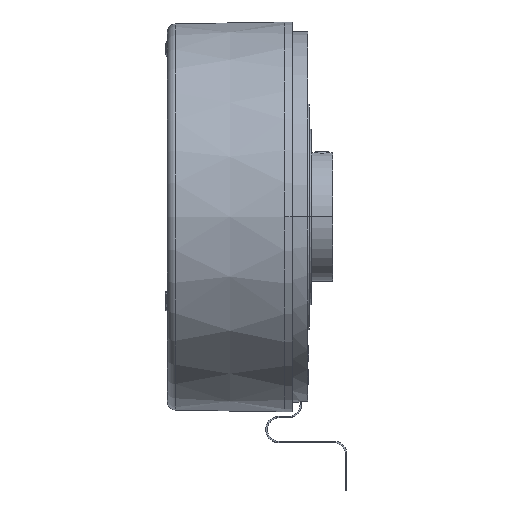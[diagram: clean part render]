
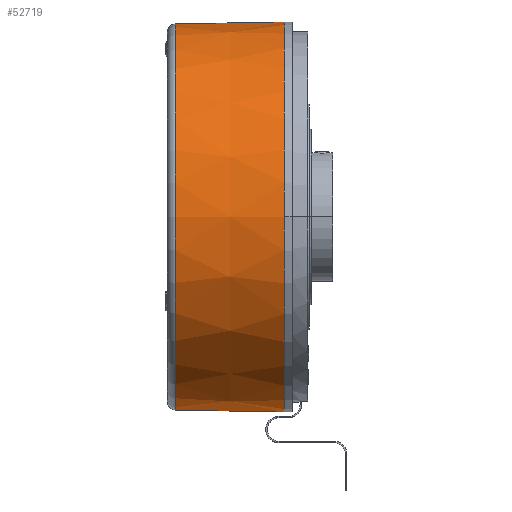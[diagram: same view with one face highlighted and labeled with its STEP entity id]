
A CAD part, top view. The second image highlights one B-rep face of the part: STEP entity #52719.
In plain terms, the highlighted conical face has half-angle 1 degrees and reference radius 50 mm.
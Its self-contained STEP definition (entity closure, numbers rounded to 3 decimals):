
#10 = VERTEX_POINT ( 'NONE', #42852 ) ;
#18 = EDGE_CURVE ( 'NONE', #10, #186, #42980, .T. ) ;
#20 = EDGE_CURVE ( 'NONE', #22659, #10, #42966, .T. ) ;
#25 = ORIENTED_EDGE ( 'NONE', *, *, #20, .T. ) ;
#29 = ORIENTED_EDGE ( 'NONE', *, *, #18, .T. ) ;
#186 = VERTEX_POINT ( 'NONE', #269 ) ;
#269 = CARTESIAN_POINT ( 'NONE',  ( 42.827, 46.833, 0. ) ) ;
#1184 = DIRECTION ( 'NONE',  ( 0., 1., 0. ) ) ;
#1185 = DIRECTION ( 'NONE',  ( 1., 0., 0. ) ) ;
#1186 = CARTESIAN_POINT ( 'NONE',  ( 14.792, -3.167, 0. ) ) ;
#1187 = AXIS2_PLACEMENT_3D ( 'NONE', #1186, #1185, #1184 ) ;
#1188 = CIRCLE ( 'NONE', #1187, 49.511 ) ;
#1202 = CARTESIAN_POINT ( 'NONE',  ( 14.792, -52.677, 0. ) ) ;
#1456 = CARTESIAN_POINT ( 'NONE',  ( 14.792, 46.344, 0. ) ) ;
#22646 = EDGE_CURVE ( 'NONE', #22751, #22659, #1188, .T. ) ;
#22659 = VERTEX_POINT ( 'NONE', #1202 ) ;
#22737 = ORIENTED_EDGE ( 'NONE', *, *, #22646, .T. ) ;
#22751 = VERTEX_POINT ( 'NONE', #1456 ) ;
#42852 = CARTESIAN_POINT ( 'NONE',  ( 42.827, -53.167, 0. ) ) ;
#42960 = DIRECTION ( 'NONE',  ( 1., -0.017, 0. ) ) ;
#42962 = VECTOR ( 'NONE', #42960, 1000. ) ;
#42965 = CARTESIAN_POINT ( 'NONE',  ( 42.827, -53.167, 0. ) ) ;
#42966 = LINE ( 'NONE', #42965, #42962 ) ;
#42973 = DIRECTION ( 'NONE',  ( 0., 1., 0. ) ) ;
#42974 = DIRECTION ( 'NONE',  ( -1., 0., 0. ) ) ;
#42976 = CARTESIAN_POINT ( 'NONE',  ( 42.827, -3.167, 0. ) ) ;
#42978 = AXIS2_PLACEMENT_3D ( 'NONE', #42976, #42974, #42973 ) ;
#42980 = CIRCLE ( 'NONE', #42978, 50. ) ;
#52058 = DIRECTION ( 'NONE',  ( 1., 0.017, 0. ) ) ;
#52059 = VECTOR ( 'NONE', #52058, 1000. ) ;
#52060 = CARTESIAN_POINT ( 'NONE',  ( 42.827, 46.833, 0. ) ) ;
#52061 = LINE ( 'NONE', #52060, #52059 ) ;
#52121 = CARTESIAN_POINT ( 'NONE',  ( 42.827, -3.167, 0. ) ) ;
#52122 = CONICAL_SURFACE ( 'NONE', #52175, 50., 0.017 ) ;
#52143 = FACE_OUTER_BOUND ( 'NONE', #52718, .T. ) ;
#52173 = DIRECTION ( 'NONE',  ( 0., -1., 0. ) ) ;
#52174 = DIRECTION ( 'NONE',  ( 1., 0., 0. ) ) ;
#52175 = AXIS2_PLACEMENT_3D ( 'NONE', #52121, #52174, #52173 ) ;
#52684 = EDGE_CURVE ( 'NONE', #22751, #186, #52061, .T. ) ;
#52711 = ORIENTED_EDGE ( 'NONE', *, *, #52684, .F. ) ;
#52718 = EDGE_LOOP ( 'NONE', ( #52711, #22737, #25, #29 ) ) ;
#52719 = ADVANCED_FACE ( 'NONE', ( #52143 ), #52122, .T. ) ;
